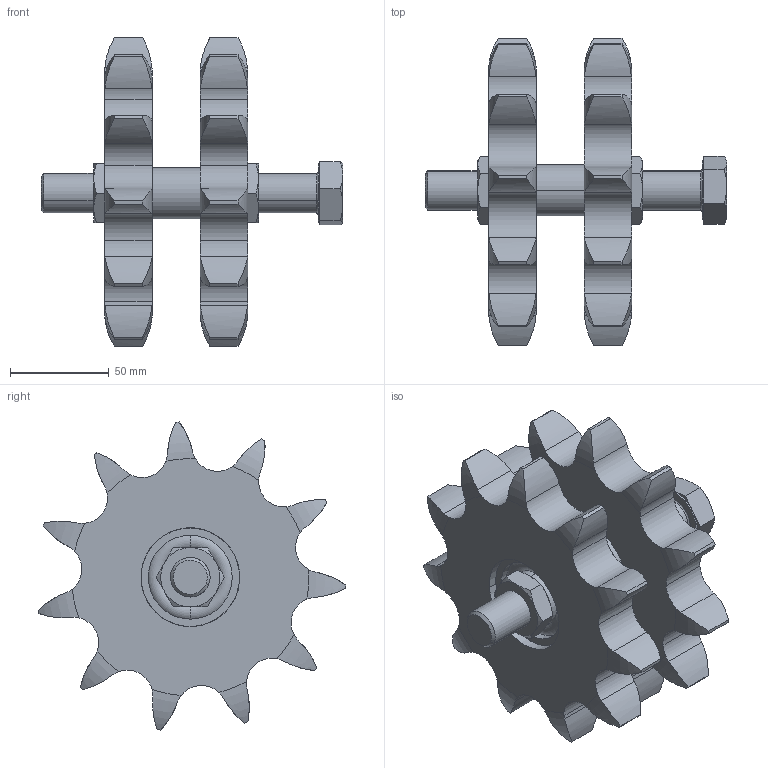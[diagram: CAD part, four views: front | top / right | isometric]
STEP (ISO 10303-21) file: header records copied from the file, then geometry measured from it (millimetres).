
FILE_DESCRIPTION (( 'STEP AP203' ), '1' );
FILE_NAME ('R 1_1-2D M20 cod. 94063122.STEP', '2017-07-28T13:40:59', ( '' ), ( '' ), 'SwSTEP 2.0', 'SolidWorks 2016', '' );
FILE_SCHEMA (( 'CONFIG_CONTROL_DESIGN' ));
Length unit declared in the file: millimetre
Products named in the file (6): ISO 4017 - M20 x 140-C_ISO 4017 - M20 x 140-C; ISO - 4035 - M20 - N_ISO - 4035 - M20 - N; DS 1 20-26-17.9; ISO 15 RBB - 0320 - 8,SI,NC,8_68_ISO 15 RBB - 0320 - 8,SI,NC,8_68; R 1_1-2D M20 cod. 94063122; Chain wheel ISO - 11Z 24B-1 --11SA50.0N_Chain wheel ISO - 11Z 24B-1 --11SA50.0N
Assembly tree (8 placements, depth 2):
  R 1_1-2D M20 cod. 94063122
    Chain wheel ISO - 11Z 24B-1 --11SA50.0N_Chain wheel ISO - 11Z 24B-1 --11SA50.0N  x2
    ISO 15 RBB - 0320 - 8,SI,NC,8_68_ISO 15 RBB - 0320 - 8,SI,NC,8_68  x2
    ISO - 4035 - M20 - N_ISO - 4035 - M20 - N  x2
    ISO 4017 - M20 x 140-C_ISO 4017 - M20 x 140-C
    DS 1 20-26-17.9
Bounding box: 152.5 x 155.56 x 155.81 mm (x, y, z)
Volume: 617483.9 mm3; surface area: 120051.9 mm2
Topology: 8 solids, 8 shells, 297 faces, 742 edges, 466 vertices
Faces by surface type: cylinder 142, torus 70, plane 45, cone 40
Entity records: 6221 total; most frequent: CARTESIAN_POINT 1682, ORIENTED_EDGE 814, DIRECTION 807, EDGE_CURVE 407, AXIS2_PLACEMENT_3D 351, VERTEX_POINT 254, EDGE_LOOP 177, CIRCLE 174
